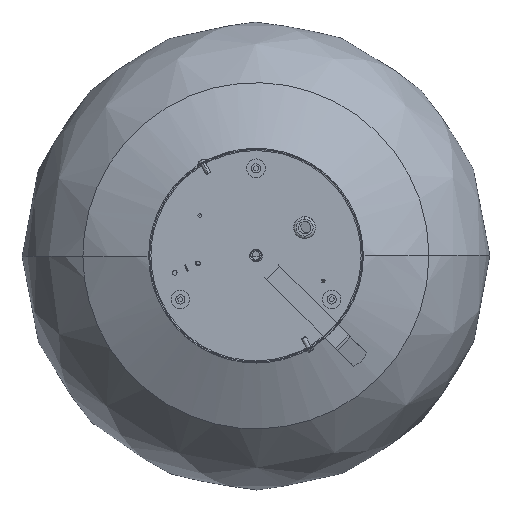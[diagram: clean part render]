
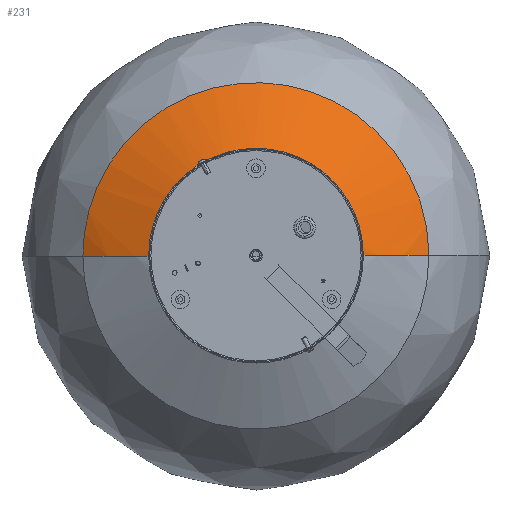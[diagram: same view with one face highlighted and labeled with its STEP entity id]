
A CAD part, top view. The second image highlights one B-rep face of the part: STEP entity #231.
In plain terms, the highlighted free-form (B-spline) face has degree [2, 2] with [9, 5] control points.
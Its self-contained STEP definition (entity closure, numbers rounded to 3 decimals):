
#231=ADVANCED_FACE('',(#1239),#14345,.T.);
#1239=FACE_OUTER_BOUND('',#2247,.T.);
#2247=EDGE_LOOP('',(#3401,#3402,#3403,#3404));
#3401=ORIENTED_EDGE('',*,*,#8030,.T.);
#3402=ORIENTED_EDGE('',*,*,#8024,.T.);
#3403=ORIENTED_EDGE('',*,*,#8032,.T.);
#3404=ORIENTED_EDGE('',*,*,#8025,.T.);
#8024=EDGE_CURVE('',#12652,#12653,#11334,.T.);
#8025=EDGE_CURVE('',#12654,#12651,#11335,.T.);
#8030=EDGE_CURVE('',#12651,#12652,#11340,.T.);
#8032=EDGE_CURVE('',#12653,#12654,#11342,.T.);
#11334=(
BOUNDED_CURVE()
B_SPLINE_CURVE(2,(#16474,#16475,#16476),.UNSPECIFIED.,.F.,.F.)
B_SPLINE_CURVE_WITH_KNOTS((3,3),(0.,71.588),.UNSPECIFIED.)
CURVE()
GEOMETRIC_REPRESENTATION_ITEM()
RATIONAL_B_SPLINE_CURVE((1.,0.989,1.))
REPRESENTATION_ITEM('')
);
#11335=(
BOUNDED_CURVE()
B_SPLINE_CURVE(2,(#16477,#16478,#16479),.UNSPECIFIED.,.F.,.F.)
B_SPLINE_CURVE_WITH_KNOTS((3,3),(0.,71.588),.UNSPECIFIED.)
CURVE()
GEOMETRIC_REPRESENTATION_ITEM()
RATIONAL_B_SPLINE_CURVE((1.,0.989,1.))
REPRESENTATION_ITEM('')
);
#11340=(
BOUNDED_CURVE()
B_SPLINE_CURVE(2,(#16500,#16501,#16502,#16503,#16504),.UNSPECIFIED.,.F.,
 .F.)
B_SPLINE_CURVE_WITH_KNOTS((3,2,3),(-235.619,-117.81,
0.),.UNSPECIFIED.)
CURVE()
GEOMETRIC_REPRESENTATION_ITEM()
RATIONAL_B_SPLINE_CURVE((1.,0.707,1.,0.707,1.))
REPRESENTATION_ITEM('')
);
#11342=(
BOUNDED_CURVE()
B_SPLINE_CURVE(2,(#16510,#16511,#16512,#16513,#16514),.UNSPECIFIED.,.F.,
 .F.)
B_SPLINE_CURVE_WITH_KNOTS((3,2,3),(-435.697,-217.849,
0.),.UNSPECIFIED.)
CURVE()
GEOMETRIC_REPRESENTATION_ITEM()
RATIONAL_B_SPLINE_CURVE((1.,0.707,1.,0.707,1.))
REPRESENTATION_ITEM('')
);
#12651=VERTEX_POINT('',#16417);
#12652=VERTEX_POINT('',#16418);
#12653=VERTEX_POINT('',#16419);
#12654=VERTEX_POINT('',#16420);
#14345=(
BOUNDED_SURFACE()
B_SPLINE_SURFACE(2,2,((#15916,#15917,#15918,#15919,#15920),(#15921,#15922,
#15923,#15924,#15925),(#15926,#15927,#15928,#15929,#15930),(#15931,#15932,
#15933,#15934,#15935),(#15936,#15937,#15938,#15939,#15940),(#15941,#15942,
#15943,#15944,#15945),(#15946,#15947,#15948,#15949,#15950),(#15951,#15952,
#15953,#15954,#15955),(#15956,#15957,#15958,#15959,#15960)),
 .UNSPECIFIED.,.T.,.F.,.F.)
B_SPLINE_SURFACE_WITH_KNOTS((3,2,2,2,3),(3,2,3),(0.,376.991,753.982,
1130.973,1507.964),(0.,376.991,753.982),
 .UNSPECIFIED.)
GEOMETRIC_REPRESENTATION_ITEM()
RATIONAL_B_SPLINE_SURFACE(((1.,0.707,1.,0.707,1.),
(0.707,0.5,0.707,0.5,0.707),(1.,0.707,
1.,0.707,1.),(0.707,0.5,0.707,0.5,0.707),
(1.,0.707,1.,0.707,1.),(0.707,0.5,0.707,
0.5,0.707),(1.,0.707,1.,0.707,1.),(0.707,
0.5,0.707,0.5,0.707),(1.,0.707,1.,0.707,
1.)))
REPRESENTATION_ITEM('')
SURFACE()
);
#15916=CARTESIAN_POINT('',(0.636,-394.789,-117.79));
#15917=CARTESIAN_POINT('',(-239.363,-395.426,-117.79));
#15918=CARTESIAN_POINT('',(-239.999,-155.426,-117.79));
#15919=CARTESIAN_POINT('',(-240.635,84.573,-117.79));
#15920=CARTESIAN_POINT('',(-0.636,85.209,-117.79));
#15921=CARTESIAN_POINT('',(0.636,-394.789,-117.79));
#15922=CARTESIAN_POINT('',(-239.363,-395.426,122.21));
#15923=CARTESIAN_POINT('',(-239.999,-155.426,122.21));
#15924=CARTESIAN_POINT('',(-240.635,84.573,122.21));
#15925=CARTESIAN_POINT('',(-0.636,85.209,-117.79));
#15926=CARTESIAN_POINT('',(0.636,-394.789,-117.79));
#15927=CARTESIAN_POINT('',(0.636,-394.789,122.21));
#15928=CARTESIAN_POINT('',(0.,-154.79,122.21));
#15929=CARTESIAN_POINT('',(-0.636,85.209,122.21));
#15930=CARTESIAN_POINT('',(-0.636,85.209,-117.79));
#15931=CARTESIAN_POINT('',(0.636,-394.789,-117.79));
#15932=CARTESIAN_POINT('',(240.635,-394.153,122.21));
#15933=CARTESIAN_POINT('',(239.999,-154.154,122.21));
#15934=CARTESIAN_POINT('',(239.363,85.845,122.21));
#15935=CARTESIAN_POINT('',(-0.636,85.209,-117.79));
#15936=CARTESIAN_POINT('',(0.636,-394.789,-117.79));
#15937=CARTESIAN_POINT('',(240.635,-394.153,-117.79));
#15938=CARTESIAN_POINT('',(239.999,-154.154,-117.79));
#15939=CARTESIAN_POINT('',(239.363,85.845,-117.79));
#15940=CARTESIAN_POINT('',(-0.636,85.209,-117.79));
#15941=CARTESIAN_POINT('',(0.636,-394.789,-117.79));
#15942=CARTESIAN_POINT('',(240.635,-394.153,-357.79));
#15943=CARTESIAN_POINT('',(239.999,-154.154,-357.79));
#15944=CARTESIAN_POINT('',(239.363,85.845,-357.79));
#15945=CARTESIAN_POINT('',(-0.636,85.209,-117.79));
#15946=CARTESIAN_POINT('',(0.636,-394.789,-117.79));
#15947=CARTESIAN_POINT('',(0.636,-394.789,-357.79));
#15948=CARTESIAN_POINT('',(0.,-154.79,-357.79));
#15949=CARTESIAN_POINT('',(-0.636,85.209,-357.79));
#15950=CARTESIAN_POINT('',(-0.636,85.209,-117.79));
#15951=CARTESIAN_POINT('',(0.636,-394.789,-117.79));
#15952=CARTESIAN_POINT('',(-239.363,-395.426,-357.79));
#15953=CARTESIAN_POINT('',(-239.999,-155.426,-357.79));
#15954=CARTESIAN_POINT('',(-240.635,84.573,-357.79));
#15955=CARTESIAN_POINT('',(-0.636,85.209,-117.79));
#15956=CARTESIAN_POINT('',(0.636,-394.789,-117.79));
#15957=CARTESIAN_POINT('',(-239.363,-395.426,-117.79));
#15958=CARTESIAN_POINT('',(-239.999,-155.426,-117.79));
#15959=CARTESIAN_POINT('',(-240.635,84.573,-117.79));
#15960=CARTESIAN_POINT('',(-0.636,85.209,-117.79));
#16417=CARTESIAN_POINT('',(-75.,-154.989,110.19));
#16418=CARTESIAN_POINT('',(75.,-154.591,110.19));
#16419=CARTESIAN_POINT('',(138.686,-154.422,78.082));
#16420=CARTESIAN_POINT('',(-138.686,-155.158,78.082));
#16474=CARTESIAN_POINT('',(75.,-154.591,110.19));
#16475=CARTESIAN_POINT('',(109.255,-154.5,98.921));
#16476=CARTESIAN_POINT('',(138.686,-154.422,78.082));
#16477=CARTESIAN_POINT('',(-138.686,-155.158,78.082));
#16478=CARTESIAN_POINT('',(-109.255,-155.08,98.921));
#16479=CARTESIAN_POINT('',(-75.,-154.989,110.19));
#16500=CARTESIAN_POINT('',(-75.,-154.989,110.19));
#16501=CARTESIAN_POINT('',(-75.199,-79.989,110.19));
#16502=CARTESIAN_POINT('',(-0.199,-79.79,110.19));
#16503=CARTESIAN_POINT('',(74.801,-79.592,110.19));
#16504=CARTESIAN_POINT('',(75.,-154.591,110.19));
#16510=CARTESIAN_POINT('',(138.686,-154.422,78.082));
#16511=CARTESIAN_POINT('',(138.319,-15.736,78.082));
#16512=CARTESIAN_POINT('',(-0.368,-16.104,78.082));
#16513=CARTESIAN_POINT('',(-139.054,-16.472,78.082));
#16514=CARTESIAN_POINT('',(-138.686,-155.158,78.082));
